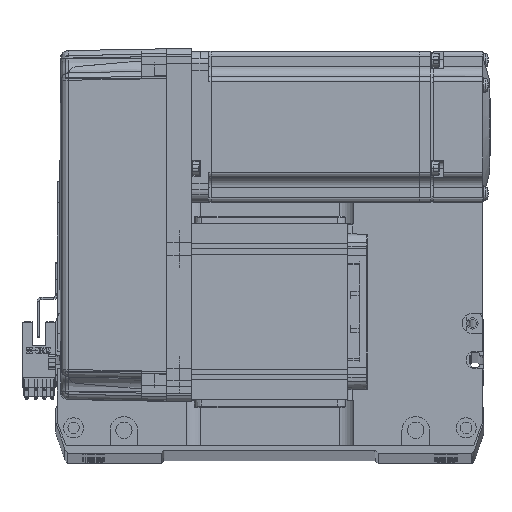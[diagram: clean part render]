
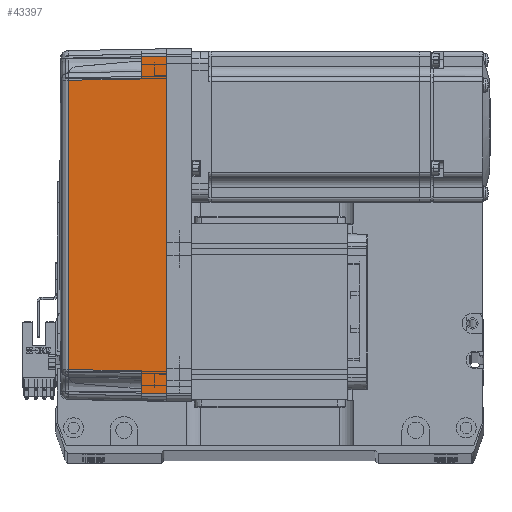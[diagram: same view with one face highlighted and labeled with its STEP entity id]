
A CAD part, top view. The second image highlights one B-rep face of the part: STEP entity #43397.
In plain terms, the highlighted planar face has unit normal (-0.018, 0, 1) as drawn and (0, 1, 0.017) by its records, which use the part's own axes.
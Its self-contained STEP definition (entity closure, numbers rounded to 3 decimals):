
#1578 = CARTESIAN_POINT ( 'NONE',  ( 57.495, 35.32, 38.985 ) ) ;
#1661 = FACE_OUTER_BOUND ( 'NONE', #16930, .T. ) ;
#2508 = DIRECTION ( 'NONE',  ( 0., 1., 0.017 ) ) ;
#2980 = CARTESIAN_POINT ( 'NONE',  ( -66.826, 35.825, 10. ) ) ;
#3545 = ORIENTED_EDGE ( 'NONE', *, *, #35436, .F. ) ;
#3762 = LINE ( 'NONE', #65463, #4559 ) ;
#3910 = CARTESIAN_POINT ( 'NONE',  ( -57.495, 35.32, 38.985 ) ) ;
#4507 = CARTESIAN_POINT ( 'NONE',  ( -57.495, 35.32, 38.985 ) ) ;
#4559 = VECTOR ( 'NONE', #44467, 1000. ) ;
#7184 = CARTESIAN_POINT ( 'NONE',  ( 57.495, 35.32, 38.985 ) ) ;
#8050 = DIRECTION ( 'NONE',  ( 0.017, -0.017, 1. ) ) ;
#8083 = PLANE ( 'NONE',  #10036 ) ;
#8542 = CARTESIAN_POINT ( 'NONE',  ( -67., 36., 0. ) ) ;
#9320 = EDGE_CURVE ( 'NONE', #63092, #44086, #57108, .T. ) ;
#10036 = AXIS2_PLACEMENT_3D ( 'NONE', #45088, #2508, #39295 ) ;
#10620 = VECTOR ( 'NONE', #63688, 1000. ) ;
#10742 = EDGE_CURVE ( 'NONE', #36847, #43622, #39602, .T. ) ;
#11298 = VECTOR ( 'NONE', #55251, 1000. ) ;
#14747 = VECTOR ( 'NONE', #8050, 1000. ) ;
#16930 = EDGE_LOOP ( 'NONE', ( #68546, #58588, #28314, #67339, #22746, #27829, #3545, #17670 ) ) ;
#17509 = CARTESIAN_POINT ( 'NONE',  ( -67., 36., 0. ) ) ;
#17670 = ORIENTED_EDGE ( 'NONE', *, *, #62907, .F. ) ;
#18187 = CARTESIAN_POINT ( 'NONE',  ( -58., 35.825, 10. ) ) ;
#18672 = B_SPLINE_CURVE_WITH_KNOTS ( 'NONE', 3,
 ( #4507, #68105, #51769, #46645 ),
 .UNSPECIFIED., .F., .F.,
 ( 4, 4 ),
 ( 0., 1. ),
 .UNSPECIFIED. ) ;
#20715 = LINE ( 'NONE', #67773, #57978 ) ;
#21824 = CARTESIAN_POINT ( 'NONE',  ( 70., 35.825, 10. ) ) ;
#22712 = CARTESIAN_POINT ( 'NONE',  ( -58., 35.825, 10. ) ) ;
#22746 = ORIENTED_EDGE ( 'NONE', *, *, #9320, .T. ) ;
#24527 = LINE ( 'NONE', #18187, #11298 ) ;
#27829 = ORIENTED_EDGE ( 'NONE', *, *, #40360, .T. ) ;
#28314 = ORIENTED_EDGE ( 'NONE', *, *, #65476, .T. ) ;
#30651 = EDGE_CURVE ( 'NONE', #54994, #63092, #18672, .T. ) ;
#35436 = EDGE_CURVE ( 'NONE', #67769, #46787, #3762, .T. ) ;
#36847 = VERTEX_POINT ( 'NONE', #2980 ) ;
#39295 = DIRECTION ( 'NONE',  ( 0., -0.017, 1. ) ) ;
#39602 = LINE ( 'NONE', #21824, #10620 ) ;
#40360 = EDGE_CURVE ( 'NONE', #44086, #46787, #40899, .T. ) ;
#40899 = LINE ( 'NONE', #56813, #50011 ) ;
#42473 = CARTESIAN_POINT ( 'NONE',  ( 66.826, 35.825, 10. ) ) ;
#43397 = ADVANCED_FACE ( 'NONE', ( #1661 ), #8083, .T. ) ;
#43622 = VERTEX_POINT ( 'NONE', #22712 ) ;
#43769 = DIRECTION ( 'NONE',  ( 0.017, 0.017, -1. ) ) ;
#44086 = VERTEX_POINT ( 'NONE', #58465 ) ;
#44467 = DIRECTION ( 'NONE',  ( -0.017, -0.017, 1. ) ) ;
#45088 = CARTESIAN_POINT ( 'NONE',  ( 70., 36., 0. ) ) ;
#46373 = DIRECTION ( 'NONE',  ( 1., 0., 0. ) ) ;
#46645 = CARTESIAN_POINT ( 'NONE',  ( 57.495, 35.32, 38.985 ) ) ;
#46787 = VERTEX_POINT ( 'NONE', #42473 ) ;
#50011 = VECTOR ( 'NONE', #46373, 1000. ) ;
#51769 = CARTESIAN_POINT ( 'NONE',  ( 19.165, 35.316, 39.181 ) ) ;
#54994 = VERTEX_POINT ( 'NONE', #3910 ) ;
#55251 = DIRECTION ( 'NONE',  ( 0.017, -0.017, 1. ) ) ;
#56813 = CARTESIAN_POINT ( 'NONE',  ( 70., 35.825, 10. ) ) ;
#57108 = LINE ( 'NONE', #7184, #62889 ) ;
#57396 = DIRECTION ( 'NONE',  ( 1., 0., 0. ) ) ;
#57978 = VECTOR ( 'NONE', #57396, 1000. ) ;
#58465 = CARTESIAN_POINT ( 'NONE',  ( 58., 35.825, 10. ) ) ;
#58588 = ORIENTED_EDGE ( 'NONE', *, *, #10742, .T. ) ;
#62889 = VECTOR ( 'NONE', #43769, 1000. ) ;
#62907 = EDGE_CURVE ( 'NONE', #65148, #67769, #20715, .T. ) ;
#63092 = VERTEX_POINT ( 'NONE', #1578 ) ;
#63688 = DIRECTION ( 'NONE',  ( 1., 0., 0. ) ) ;
#64326 = LINE ( 'NONE', #17509, #14747 ) ;
#65148 = VERTEX_POINT ( 'NONE', #8542 ) ;
#65463 = CARTESIAN_POINT ( 'NONE',  ( 67.001, 36.001, -0.052 ) ) ;
#65476 = EDGE_CURVE ( 'NONE', #43622, #54994, #24527, .T. ) ;
#66536 = CARTESIAN_POINT ( 'NONE',  ( 67., 36., 0. ) ) ;
#67339 = ORIENTED_EDGE ( 'NONE', *, *, #30651, .T. ) ;
#67609 = EDGE_CURVE ( 'NONE', #65148, #36847, #64326, .T. ) ;
#67769 = VERTEX_POINT ( 'NONE', #66536 ) ;
#67773 = CARTESIAN_POINT ( 'NONE',  ( 0., 36., 0. ) ) ;
#68105 = CARTESIAN_POINT ( 'NONE',  ( -19.165, 35.316, 39.181 ) ) ;
#68546 = ORIENTED_EDGE ( 'NONE', *, *, #67609, .T. ) ;
